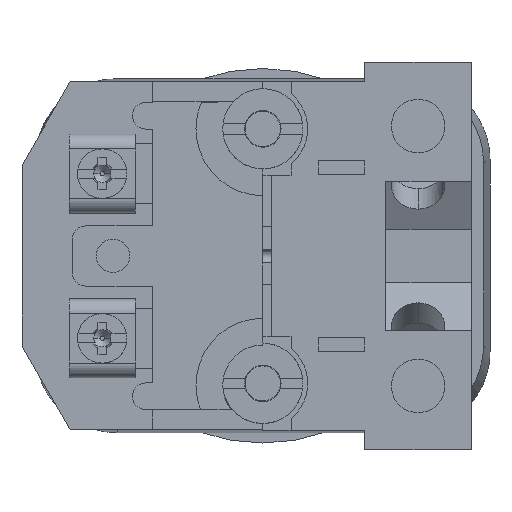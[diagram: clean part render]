
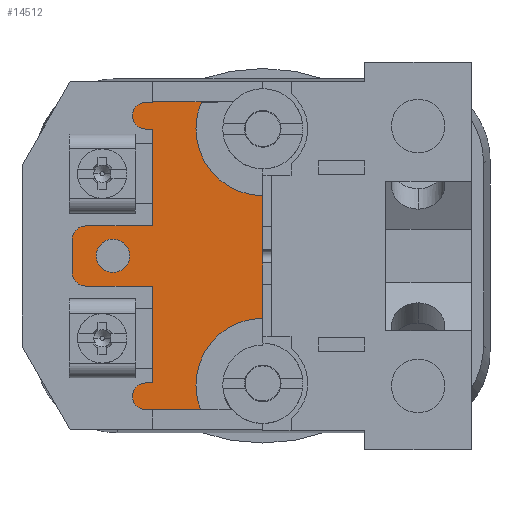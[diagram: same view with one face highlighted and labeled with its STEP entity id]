
A CAD part, front view. The second image highlights one B-rep face of the part: STEP entity #14512.
In plain terms, the highlighted planar face has unit normal (0, -1, 0) as drawn and (0, 1, 0) by its records, which use the part's own axes.
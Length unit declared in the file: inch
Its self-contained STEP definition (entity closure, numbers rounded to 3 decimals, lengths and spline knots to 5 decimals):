
#12185=DIRECTION('',(-1.,0.,0.));
#12186=VECTOR('',#12185,0.313);
#12187=CARTESIAN_POINT('',(0.828,1.125,-0.1415));
#12188=LINE('',#12187,#12186);
#12189=DIRECTION('',(0.,0.,1.));
#12190=VECTOR('',#12189,0.4525);
#12191=CARTESIAN_POINT('',(0.515,1.125,0.1395));
#12192=LINE('',#12191,#12190);
#12193=CARTESIAN_POINT('',(0.548,1.125,0.652));
#12194=DIRECTION('',(0.,-1.,0.));
#12195=DIRECTION('',(0.,0.,-1.));
#12196=AXIS2_PLACEMENT_3D('',#12193,#12194,#12195);
#12198=CARTESIAN_POINT('',(0.548,1.125,0.657));
#12199=DIRECTION('',(0.,-1.,0.));
#12200=DIRECTION('',(1.,0.,0.));
#12201=AXIS2_PLACEMENT_3D('',#12198,#12199,#12200);
#12203=DIRECTION('',(0.,0.,1.));
#12204=VECTOR('',#12203,0.003);
#12205=CARTESIAN_POINT('',(0.515,1.125,0.717));
#12206=LINE('',#12205,#12204);
#12207=DIRECTION('',(1.,0.,-0.02));
#12208=VECTOR('',#12207,0.14907);
#12209=CARTESIAN_POINT('',(0.13726,1.125,0.72));
#12210=LINE('',#12209,#12208);
#12211=CARTESIAN_POINT('',(0.,1.125,0.593));
#12212=DIRECTION('',(0.,1.,0.));
#12213=DIRECTION('',(0.918,0.,0.397));
#12214=AXIS2_PLACEMENT_3D('',#12211,#12212,#12213);
#12216=CARTESIAN_POINT('',(0.,1.125,0.593));
#12217=DIRECTION('',(0.,1.,0.));
#12218=DIRECTION('',(1.,0.,0.));
#12219=AXIS2_PLACEMENT_3D('',#12216,#12217,#12218);
#12221=DIRECTION('',(0.,0.,-1.));
#12222=VECTOR('',#12221,0.573);
#12223=CARTESIAN_POINT('',(0.,1.125,0.281));
#12224=LINE('',#12223,#12222);
#12225=CARTESIAN_POINT('',(0.,1.125,-0.604));
#12226=DIRECTION('',(0.,1.,0.));
#12227=DIRECTION('',(0.,0.,1.));
#12228=AXIS2_PLACEMENT_3D('',#12225,#12226,#12227);
#12230=CARTESIAN_POINT('',(0.,1.125,-0.604));
#12231=DIRECTION('',(0.,1.,0.));
#12232=DIRECTION('',(1.,0.,0.));
#12233=AXIS2_PLACEMENT_3D('',#12230,#12231,#12232);
#12235=DIRECTION('',(1.,0.,0.));
#12236=VECTOR('',#12235,0.25797);
#12237=CARTESIAN_POINT('',(0.29003,1.125,-0.719));
#12238=LINE('',#12237,#12236);
#12239=CARTESIAN_POINT('',(0.548,1.125,-0.659));
#12240=DIRECTION('',(0.,-1.,0.));
#12241=DIRECTION('',(0.,0.,-1.));
#12242=AXIS2_PLACEMENT_3D('',#12239,#12240,#12241);
#12244=CARTESIAN_POINT('',(0.548,1.125,-0.654));
#12245=DIRECTION('',(0.,-1.,0.));
#12246=DIRECTION('',(1.,0.,0.));
#12247=AXIS2_PLACEMENT_3D('',#12244,#12245,#12246);
#12249=DIRECTION('',(0.,0.,1.));
#12250=VECTOR('',#12249,0.4525);
#12251=CARTESIAN_POINT('',(0.515,1.125,-0.594));
#12252=LINE('',#12251,#12250);
#12253=CARTESIAN_POINT('',(0.828,1.125,-0.0795));
#12254=DIRECTION('',(0.,-1.,0.));
#12255=DIRECTION('',(0.,0.,-1.));
#12256=AXIS2_PLACEMENT_3D('',#12253,#12254,#12255);
#12258=CARTESIAN_POINT('',(0.828,1.125,0.0775));
#12259=DIRECTION('',(0.,-1.,0.));
#12260=DIRECTION('',(1.,0.,0.));
#12261=AXIS2_PLACEMENT_3D('',#12258,#12259,#12260);
#12263=CARTESIAN_POINT('',(0.7,1.125,0.));
#12264=DIRECTION('',(0.,1.,0.));
#12265=DIRECTION('',(1.,0.,0.));
#12266=AXIS2_PLACEMENT_3D('',#12263,#12264,#12265);
#12268=CARTESIAN_POINT('',(0.7,1.125,0.));
#12269=DIRECTION('',(0.,1.,0.));
#12270=DIRECTION('',(-1.,0.,0.));
#12271=AXIS2_PLACEMENT_3D('',#12268,#12269,#12270);
#12707=DIRECTION('',(-1.,0.,0.));
#12708=VECTOR('',#12707,0.033);
#12709=CARTESIAN_POINT('',(0.548,1.125,0.592));
#12710=LINE('',#12709,#12708);
#12719=DIRECTION('',(0.,0.,-1.));
#12720=VECTOR('',#12719,0.005);
#12721=CARTESIAN_POINT('',(0.608,1.125,0.657));
#12722=LINE('',#12721,#12720);
#12731=DIRECTION('',(1.,0.,0.));
#12732=VECTOR('',#12731,0.033);
#12733=CARTESIAN_POINT('',(0.515,1.125,0.717));
#12734=LINE('',#12733,#12732);
#12843=DIRECTION('',(1.,0.,0.));
#12844=VECTOR('',#12843,0.37774);
#12845=CARTESIAN_POINT('',(0.13726,1.125,0.72));
#12846=LINE('',#12845,#12844);
#12875=DIRECTION('',(1.,0.,0.));
#12876=VECTOR('',#12875,0.313);
#12877=CARTESIAN_POINT('',(0.515,1.125,0.1395));
#12878=LINE('',#12877,#12876);
#12891=DIRECTION('',(0.,0.,-1.));
#12892=VECTOR('',#12891,0.157);
#12893=CARTESIAN_POINT('',(0.89,1.125,0.0775));
#12894=LINE('',#12893,#12892);
#12955=DIRECTION('',(0.,0.,-1.));
#12956=VECTOR('',#12955,0.005);
#12957=CARTESIAN_POINT('',(0.608,1.125,-0.654));
#12958=LINE('',#12957,#12956);
#12967=DIRECTION('',(1.,0.,0.));
#12968=VECTOR('',#12967,0.033);
#12969=CARTESIAN_POINT('',(0.515,1.125,-0.594));
#12970=LINE('',#12969,#12968);
#13673=CARTESIAN_POINT('',(0.515,1.125,-0.1415));
#13674=VERTEX_POINT('',#13673);
#13675=CARTESIAN_POINT('',(0.515,1.125,-0.594));
#13676=VERTEX_POINT('',#13675);
#13677=CARTESIAN_POINT('',(0.828,1.125,-0.1415));
#13678=VERTEX_POINT('',#13677);
#13679=CARTESIAN_POINT('',(0.515,1.125,0.1395));
#13680=CARTESIAN_POINT('',(0.515,1.125,0.592));
#13681=VERTEX_POINT('',#13679);
#13682=VERTEX_POINT('',#13680);
#13683=CARTESIAN_POINT('',(0.548,1.125,0.592));
#13684=VERTEX_POINT('',#13683);
#13685=CARTESIAN_POINT('',(0.608,1.125,0.652));
#13686=VERTEX_POINT('',#13685);
#13687=CARTESIAN_POINT('',(0.608,1.125,0.657));
#13688=VERTEX_POINT('',#13687);
#13689=CARTESIAN_POINT('',(0.548,1.125,0.717));
#13690=VERTEX_POINT('',#13689);
#13691=CARTESIAN_POINT('',(0.515,1.125,0.717));
#13692=VERTEX_POINT('',#13691);
#13693=CARTESIAN_POINT('',(0.515,1.125,0.72));
#13694=VERTEX_POINT('',#13693);
#13695=CARTESIAN_POINT('',(0.13726,1.125,0.72));
#13696=VERTEX_POINT('',#13695);
#13697=CARTESIAN_POINT('',(0.2863,1.125,0.717));
#13698=VERTEX_POINT('',#13697);
#13699=CARTESIAN_POINT('',(0.312,1.125,0.593));
#13700=VERTEX_POINT('',#13699);
#13701=CARTESIAN_POINT('',(0.,1.125,0.281));
#13702=VERTEX_POINT('',#13701);
#13703=CARTESIAN_POINT('',(0.,1.125,-0.292));
#13704=VERTEX_POINT('',#13703);
#13705=CARTESIAN_POINT('',(0.312,1.125,-0.604));
#13706=VERTEX_POINT('',#13705);
#13707=CARTESIAN_POINT('',(0.29003,1.125,-0.719));
#13708=VERTEX_POINT('',#13707);
#13709=CARTESIAN_POINT('',(0.548,1.125,-0.719));
#13710=VERTEX_POINT('',#13709);
#13711=CARTESIAN_POINT('',(0.608,1.125,-0.659));
#13712=VERTEX_POINT('',#13711);
#13713=CARTESIAN_POINT('',(0.608,1.125,-0.654));
#13714=VERTEX_POINT('',#13713);
#13715=CARTESIAN_POINT('',(0.548,1.125,-0.594));
#13716=VERTEX_POINT('',#13715);
#13717=CARTESIAN_POINT('',(0.89,1.125,-0.0795));
#13718=VERTEX_POINT('',#13717);
#13719=CARTESIAN_POINT('',(0.89,1.125,0.0775));
#13720=VERTEX_POINT('',#13719);
#13721=CARTESIAN_POINT('',(0.828,1.125,0.1395));
#13722=VERTEX_POINT('',#13721);
#13723=CARTESIAN_POINT('',(0.778,1.125,0.));
#13724=CARTESIAN_POINT('',(0.622,1.125,0.));
#13725=VERTEX_POINT('',#13723);
#13726=VERTEX_POINT('',#13724);
#14452=CARTESIAN_POINT('',(0.,1.125,0.));
#14453=DIRECTION('',(0.,1.,0.));
#14454=DIRECTION('',(1.,0.,0.));
#14455=AXIS2_PLACEMENT_3D('',#14452,#14453,#14454);
#14456=PLANE('',#14455);
#14458=ORIENTED_EDGE('',*,*,#14457,.T.);
#14460=ORIENTED_EDGE('',*,*,#14459,.F.);
#14462=ORIENTED_EDGE('',*,*,#14461,.T.);
#14464=ORIENTED_EDGE('',*,*,#14463,.F.);
#14466=ORIENTED_EDGE('',*,*,#14465,.T.);
#14468=ORIENTED_EDGE('',*,*,#14467,.F.);
#14470=ORIENTED_EDGE('',*,*,#14469,.T.);
#14472=ORIENTED_EDGE('',*,*,#14471,.F.);
#14474=ORIENTED_EDGE('',*,*,#14473,.T.);
#14476=ORIENTED_EDGE('',*,*,#14475,.T.);
#14478=ORIENTED_EDGE('',*,*,#14477,.T.);
#14479=ORIENTED_EDGE('',*,*,#14020,.T.);
#14481=ORIENTED_EDGE('',*,*,#14480,.T.);
#14483=ORIENTED_EDGE('',*,*,#14482,.T.);
#14485=ORIENTED_EDGE('',*,*,#14484,.T.);
#14487=ORIENTED_EDGE('',*,*,#14486,.T.);
#14489=ORIENTED_EDGE('',*,*,#14488,.F.);
#14491=ORIENTED_EDGE('',*,*,#14490,.T.);
#14493=ORIENTED_EDGE('',*,*,#14492,.F.);
#14494=ORIENTED_EDGE('',*,*,#14429,.T.);
#14495=ORIENTED_EDGE('',*,*,#14443,.F.);
#14497=ORIENTED_EDGE('',*,*,#14496,.T.);
#14499=ORIENTED_EDGE('',*,*,#14498,.F.);
#14501=ORIENTED_EDGE('',*,*,#14500,.T.);
#14503=ORIENTED_EDGE('',*,*,#14502,.F.);
#14504=EDGE_LOOP('',(#14458,#14460,#14462,#14464,#14466,#14468,#14470,#14472,
#14474,#14476,#14478,#14479,#14481,#14483,#14485,#14487,#14489,#14491,#14493,
#14494,#14495,#14497,#14499,#14501,#14503));
#14505=FACE_OUTER_BOUND('',#14504,.F.);
#14507=ORIENTED_EDGE('',*,*,#14506,.T.);
#14509=ORIENTED_EDGE('',*,*,#14508,.T.);
#14510=EDGE_LOOP('',(#14507,#14509));
#14511=FACE_BOUND('',#14510,.F.);
#14512=ADVANCED_FACE('',(#14505,#14511),#14456,.T.);
#12197=CIRCLE('',#12196,0.06);
#12202=CIRCLE('',#12201,0.06);
#12215=CIRCLE('',#12214,0.312);
#12220=CIRCLE('',#12219,0.312);
#12229=CIRCLE('',#12228,0.312);
#12234=CIRCLE('',#12233,0.312);
#12243=CIRCLE('',#12242,0.06);
#12248=CIRCLE('',#12247,0.06);
#12257=CIRCLE('',#12256,0.062);
#12262=CIRCLE('',#12261,0.062);
#12267=CIRCLE('',#12266,0.078);
#12272=CIRCLE('',#12271,0.078);
#14020=EDGE_CURVE('',#13702,#13704,#12224,.T.);
#14429=EDGE_CURVE('',#13676,#13674,#12252,.T.);
#14443=EDGE_CURVE('',#13678,#13674,#12188,.T.);
#14457=EDGE_CURVE('',#13681,#13682,#12192,.T.);
#14459=EDGE_CURVE('',#13684,#13682,#12710,.T.);
#14461=EDGE_CURVE('',#13684,#13686,#12197,.T.);
#14463=EDGE_CURVE('',#13688,#13686,#12722,.T.);
#14465=EDGE_CURVE('',#13688,#13690,#12202,.T.);
#14467=EDGE_CURVE('',#13692,#13690,#12734,.T.);
#14469=EDGE_CURVE('',#13692,#13694,#12206,.T.);
#14471=EDGE_CURVE('',#13696,#13694,#12846,.T.);
#14473=EDGE_CURVE('',#13696,#13698,#12210,.T.);
#14475=EDGE_CURVE('',#13698,#13700,#12215,.T.);
#14477=EDGE_CURVE('',#13700,#13702,#12220,.T.);
#14480=EDGE_CURVE('',#13704,#13706,#12229,.T.);
#14482=EDGE_CURVE('',#13706,#13708,#12234,.T.);
#14484=EDGE_CURVE('',#13708,#13710,#12238,.T.);
#14486=EDGE_CURVE('',#13710,#13712,#12243,.T.);
#14488=EDGE_CURVE('',#13714,#13712,#12958,.T.);
#14490=EDGE_CURVE('',#13714,#13716,#12248,.T.);
#14492=EDGE_CURVE('',#13676,#13716,#12970,.T.);
#14496=EDGE_CURVE('',#13678,#13718,#12257,.T.);
#14498=EDGE_CURVE('',#13720,#13718,#12894,.T.);
#14500=EDGE_CURVE('',#13720,#13722,#12262,.T.);
#14502=EDGE_CURVE('',#13681,#13722,#12878,.T.);
#14506=EDGE_CURVE('',#13725,#13726,#12267,.T.);
#14508=EDGE_CURVE('',#13726,#13725,#12272,.T.);
